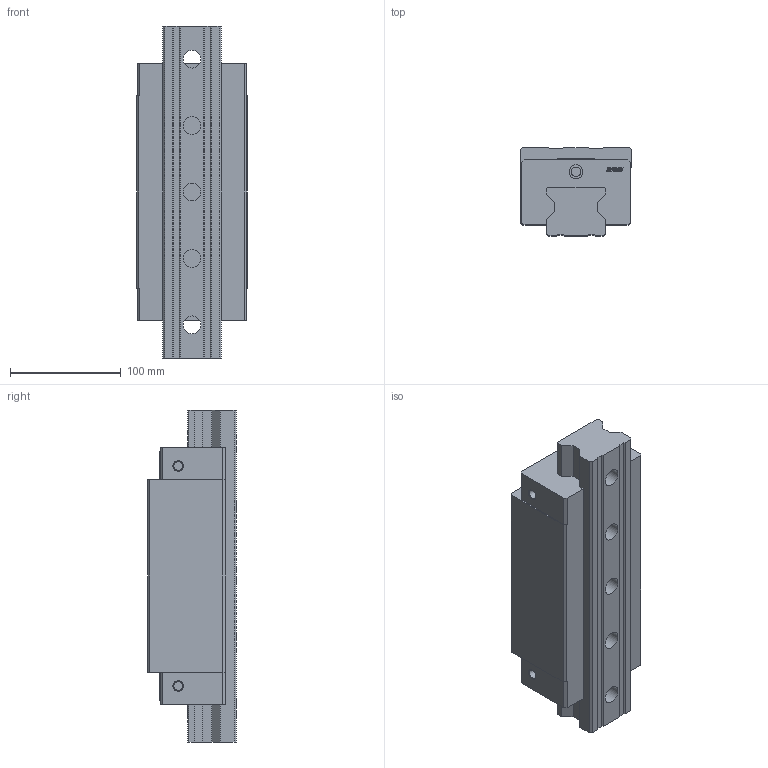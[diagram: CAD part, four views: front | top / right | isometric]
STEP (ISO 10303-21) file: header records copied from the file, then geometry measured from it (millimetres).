
FILE_DESCRIPTION(/* description */ (''),/* implementation_level */ '2;1');
FILE_NAME(/* name */ 'SRH55HA.stp',/* time_stamp */ '2022-01-22T15:19:17+08:00',/* author */ (''),/* organization */ (''),/* preprocessor_version */ 'ST-DEVELOPER v15',/* originating_system */ 'SIEMENS PLM Software NX 8.5',/* authorisation */ '');
FILE_SCHEMA (('CONFIG_CONTROL_DESIGN'));
Length unit declared in the file: millimetre
Products named in the file (1): _model1
Bounding box: 100 x 80 x 300 mm (x, y, z)
Volume: 1718202.4 mm3; surface area: 188289.2 mm2
Topology: 2 solids, 2 shells, 235 faces, 690 edges, 483 vertices
Faces by surface type: plane 127, extrusion 69, cylinder 20, cone 19
Full cylindrical faces by diameter (mm): 8.5 x2, 10.25 x6, 12.5 x2, 16 x5, 23 x5
Entity records: 8323 total; most frequent: CARTESIAN_POINT 2307, ORIENTED_EDGE 1282, DIRECTION 1019, EDGE_CURVE 641, VERTEX_POINT 473, VECTOR 411, LINE 342, EDGE_LOOP 308
